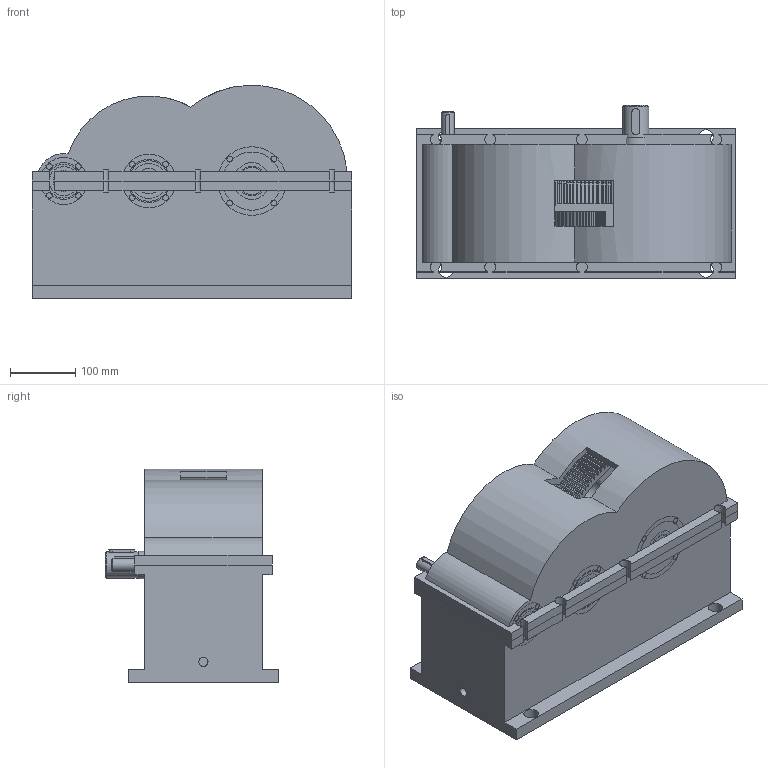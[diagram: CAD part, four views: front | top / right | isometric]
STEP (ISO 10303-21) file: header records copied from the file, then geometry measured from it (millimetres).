
FILE_DESCRIPTION(('Open CASCADE Model'),'2;1');
FILE_NAME('Open CASCADE Shape Model','2026-09-15T22:58:09',('Author'),( 'Open CASCADE'),'Open CASCADE STEP processor 7.9','build123d', 'Unknown');
FILE_SCHEMA(('AUTOMOTIVE_DESIGN { 1 0 10303 214 1 1 1 1 }'));
Length unit declared in the file: millimetre
Products named in the file (22): COMPOUND; ç®±åº§; ç®±ç; é«éè½´(é½¿è½®è½´); ä¸­é´è½´; ä½éè½´; é«éçº§å¤§é½¿è½®; ä½éçº§å°é½¿è½®; ä½éçº§å¤§é½¿è½®; è½´æ¿ç«¯ç(éç)Ã25; è½´æ¿ç«¯ç(é·ç)Ã25; è½´æ¿ç«¯ç(é·ç)Ã30(å¦ä¸ä¾§); è½´æ¿ç«¯ç(éç)Ã45; è½´æ¿ç«¯ç(é·ç)Ã45; å¹³é® 6Ã6Ã32; å¹³é® 10Ã8Ã45; å¹³é® 10Ã8Ã60; å¹³é® 16Ã10Ã56; å¹³é® 12Ã8Ã40; æ»å¨è½´æ¿ 6205(å¦ä¸ä¾§); æ»å¨è½´æ¿ 6206(å¦ä¸ä¾§); æ»å¨è½´æ¿ 6209(å¦ä¸ä¾§)
Assembly tree (25 placements, depth 2):
  COMPOUND
    ç®±åº§
    ç®±ç
    é«éè½´(é½¿è½®è½´)
    ä¸­é´è½´
    ä½éè½´
    é«éçº§å¤§é½¿è½®
    ä½éçº§å°é½¿è½®
    ä½éçº§å¤§é½¿è½®
    è½´æ¿ç«¯ç(éç)Ã25
    è½´æ¿ç«¯ç(é·ç)Ã25
    è½´æ¿ç«¯ç(é·ç)Ã30(å¦ä¸ä¾§)  x2
    è½´æ¿ç«¯ç(éç)Ã45
    è½´æ¿ç«¯ç(é·ç)Ã45
    å¹³é® 6Ã6Ã32
    å¹³é® 10Ã8Ã45
    å¹³é® 10Ã8Ã60
    å¹³é® 16Ã10Ã56
    å¹³é® 12Ã8Ã40
    æ»å¨è½´æ¿ 6205(å¦ä¸ä¾§)  x2
    æ»å¨è½´æ¿ 6206(å¦ä¸ä¾§)  x2
    æ»å¨è½´æ¿ 6209(å¦ä¸ä¾§)  x2
Bounding box: 488 x 265 x 326.45 mm (x, y, z)
Volume: 10814029.5 mm3; surface area: 2018522.3 mm2
Topology: 109 solids, 109 shells, 2056 faces, 5929 edges, 3940 vertices
Faces by surface type: extrusion 1024, cylinder 695, plane 245, sphere 86, cone 6
Full cylindrical faces by diameter (mm): 9 x24, 14 x1, 20 x2, 22 x5, 24 x1, 25 x4, 30 x6, 32.425 x2, 34 x1, 35 x2, 38 x2, 38.8 x2, 40 x1, 41.235 x6, 41.397 x6, 42 x1, 44 x1, 44.575 x2, 45 x5, 50 x2, 51.6 x2, 52 x2, 53.2 x2, 54 x1, 55 x1, 56 x2, 60.8 x2, 61.6 x2, 62 x3, 72 x2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
Entity records: 188173 total; most frequent: CARTESIAN_POINT 79053, DIRECTION 18154, VECTOR 11965, ORIENTED_EDGE 11240, PCURVE 11234, DEFINITIONAL_REPRESENTATION 11234, LINE 10941, EDGE_CURVE 5617
